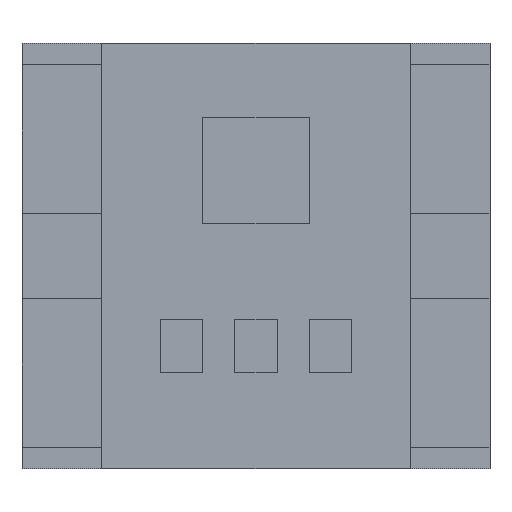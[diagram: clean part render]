
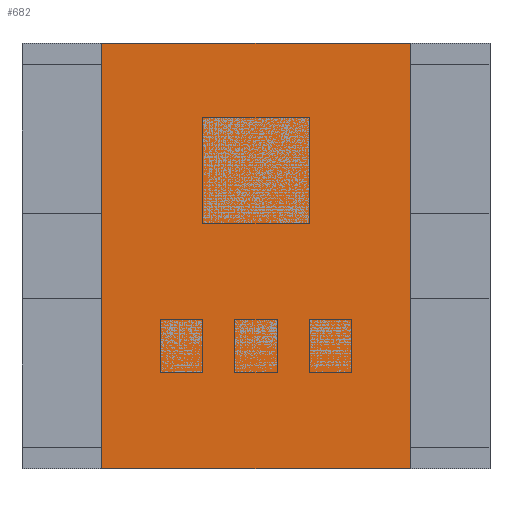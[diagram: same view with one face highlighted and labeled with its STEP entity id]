
A CAD part, top view. The second image highlights one B-rep face of the part: STEP entity #682.
In plain terms, the highlighted planar face has unit normal (0, 0, 1).
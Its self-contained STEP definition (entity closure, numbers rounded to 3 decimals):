
#368 = VERTEX_POINT('',#369);
#369 = CARTESIAN_POINT('',(-0.725,-1.,0.84));
#376 = PLANE('',#377);
#377 = AXIS2_PLACEMENT_3D('',#378,#379,#380);
#378 = CARTESIAN_POINT('',(-0.725,-1.,0.28));
#379 = DIRECTION('',(1.,0.,-0.));
#380 = DIRECTION('',(0.,0.,1.));
#388 = PLANE('',#389);
#389 = AXIS2_PLACEMENT_3D('',#390,#391,#392);
#390 = CARTESIAN_POINT('',(-0.725,-1.,0.28));
#391 = DIRECTION('',(-0.,1.,0.));
#392 = DIRECTION('',(0.,0.,1.));
#429 = VERTEX_POINT('',#430);
#430 = CARTESIAN_POINT('',(-0.725,1.,0.84));
#444 = PLANE('',#445);
#445 = AXIS2_PLACEMENT_3D('',#446,#447,#448);
#446 = CARTESIAN_POINT('',(-0.725,1.,0.28));
#447 = DIRECTION('',(-0.,1.,0.));
#448 = DIRECTION('',(0.,0.,1.));
#456 = EDGE_CURVE('',#368,#429,#457,.T.);
#457 = SURFACE_CURVE('',#458,(#462,#469),.PCURVE_S1.);
#458 = LINE('',#459,#460);
#459 = CARTESIAN_POINT('',(-0.725,-1.,0.84));
#460 = VECTOR('',#461,1.);
#461 = DIRECTION('',(-0.,1.,0.));
#462 = PCURVE('',#376,#463);
#463 = DEFINITIONAL_REPRESENTATION('',(#464),#468);
#464 = LINE('',#465,#466);
#465 = CARTESIAN_POINT('',(0.56,0.));
#466 = VECTOR('',#467,1.);
#467 = DIRECTION('',(0.,-1.));
#468 = ( GEOMETRIC_REPRESENTATION_CONTEXT(2) 
PARAMETRIC_REPRESENTATION_CONTEXT() REPRESENTATION_CONTEXT('2D SPACE',''
  ) );
#469 = PCURVE('',#470,#475);
#470 = PLANE('',#471);
#471 = AXIS2_PLACEMENT_3D('',#472,#473,#474);
#472 = CARTESIAN_POINT('',(-0.725,-1.,0.84));
#473 = DIRECTION('',(0.,0.,1.));
#474 = DIRECTION('',(1.,0.,-0.));
#475 = DEFINITIONAL_REPRESENTATION('',(#476),#480);
#476 = LINE('',#477,#478);
#477 = CARTESIAN_POINT('',(0.,0.));
#478 = VECTOR('',#479,1.);
#479 = DIRECTION('',(0.,1.));
#480 = ( GEOMETRIC_REPRESENTATION_CONTEXT(2) 
PARAMETRIC_REPRESENTATION_CONTEXT() REPRESENTATION_CONTEXT('2D SPACE',''
  ) );
#488 = VERTEX_POINT('',#489);
#489 = CARTESIAN_POINT('',(0.725,-1.,0.84));
#496 = PLANE('',#497);
#497 = AXIS2_PLACEMENT_3D('',#498,#499,#500);
#498 = CARTESIAN_POINT('',(0.725,-1.,0.28));
#499 = DIRECTION('',(1.,0.,-0.));
#500 = DIRECTION('',(0.,0.,1.));
#539 = VERTEX_POINT('',#540);
#540 = CARTESIAN_POINT('',(0.725,1.,0.84));
#561 = EDGE_CURVE('',#488,#539,#562,.T.);
#562 = SURFACE_CURVE('',#563,(#567,#574),.PCURVE_S1.);
#563 = LINE('',#564,#565);
#564 = CARTESIAN_POINT('',(0.725,-1.,0.84));
#565 = VECTOR('',#566,1.);
#566 = DIRECTION('',(-0.,1.,0.));
#567 = PCURVE('',#496,#568);
#568 = DEFINITIONAL_REPRESENTATION('',(#569),#573);
#569 = LINE('',#570,#571);
#570 = CARTESIAN_POINT('',(0.56,0.));
#571 = VECTOR('',#572,1.);
#572 = DIRECTION('',(0.,-1.));
#573 = ( GEOMETRIC_REPRESENTATION_CONTEXT(2) 
PARAMETRIC_REPRESENTATION_CONTEXT() REPRESENTATION_CONTEXT('2D SPACE',''
  ) );
#574 = PCURVE('',#470,#575);
#575 = DEFINITIONAL_REPRESENTATION('',(#576),#580);
#576 = LINE('',#577,#578);
#577 = CARTESIAN_POINT('',(1.45,0.));
#578 = VECTOR('',#579,1.);
#579 = DIRECTION('',(0.,1.));
#580 = ( GEOMETRIC_REPRESENTATION_CONTEXT(2) 
PARAMETRIC_REPRESENTATION_CONTEXT() REPRESENTATION_CONTEXT('2D SPACE',''
  ) );
#607 = EDGE_CURVE('',#368,#488,#608,.T.);
#608 = SURFACE_CURVE('',#609,(#613,#620),.PCURVE_S1.);
#609 = LINE('',#610,#611);
#610 = CARTESIAN_POINT('',(-0.725,-1.,0.84));
#611 = VECTOR('',#612,1.);
#612 = DIRECTION('',(1.,0.,-0.));
#613 = PCURVE('',#388,#614);
#614 = DEFINITIONAL_REPRESENTATION('',(#615),#619);
#615 = LINE('',#616,#617);
#616 = CARTESIAN_POINT('',(0.56,0.));
#617 = VECTOR('',#618,1.);
#618 = DIRECTION('',(0.,1.));
#619 = ( GEOMETRIC_REPRESENTATION_CONTEXT(2) 
PARAMETRIC_REPRESENTATION_CONTEXT() REPRESENTATION_CONTEXT('2D SPACE',''
  ) );
#620 = PCURVE('',#470,#621);
#621 = DEFINITIONAL_REPRESENTATION('',(#622),#626);
#622 = LINE('',#623,#624);
#623 = CARTESIAN_POINT('',(0.,0.));
#624 = VECTOR('',#625,1.);
#625 = DIRECTION('',(1.,0.));
#626 = ( GEOMETRIC_REPRESENTATION_CONTEXT(2) 
PARAMETRIC_REPRESENTATION_CONTEXT() REPRESENTATION_CONTEXT('2D SPACE',''
  ) );
#654 = EDGE_CURVE('',#429,#539,#655,.T.);
#655 = SURFACE_CURVE('',#656,(#660,#667),.PCURVE_S1.);
#656 = LINE('',#657,#658);
#657 = CARTESIAN_POINT('',(-0.725,1.,0.84));
#658 = VECTOR('',#659,1.);
#659 = DIRECTION('',(1.,0.,-0.));
#660 = PCURVE('',#444,#661);
#661 = DEFINITIONAL_REPRESENTATION('',(#662),#666);
#662 = LINE('',#663,#664);
#663 = CARTESIAN_POINT('',(0.56,0.));
#664 = VECTOR('',#665,1.);
#665 = DIRECTION('',(0.,1.));
#666 = ( GEOMETRIC_REPRESENTATION_CONTEXT(2) 
PARAMETRIC_REPRESENTATION_CONTEXT() REPRESENTATION_CONTEXT('2D SPACE',''
  ) );
#667 = PCURVE('',#470,#668);
#668 = DEFINITIONAL_REPRESENTATION('',(#669),#673);
#669 = LINE('',#670,#671);
#670 = CARTESIAN_POINT('',(0.,2.));
#671 = VECTOR('',#672,1.);
#672 = DIRECTION('',(1.,0.));
#673 = ( GEOMETRIC_REPRESENTATION_CONTEXT(2) 
PARAMETRIC_REPRESENTATION_CONTEXT() REPRESENTATION_CONTEXT('2D SPACE',''
  ) );
#682 = ADVANCED_FACE('',(#683),#470,.T.);
#683 = FACE_BOUND('',#684,.T.);
#684 = EDGE_LOOP('',(#685,#686,#687,#688));
#685 = ORIENTED_EDGE('',*,*,#456,.F.);
#686 = ORIENTED_EDGE('',*,*,#607,.T.);
#687 = ORIENTED_EDGE('',*,*,#561,.T.);
#688 = ORIENTED_EDGE('',*,*,#654,.F.);
